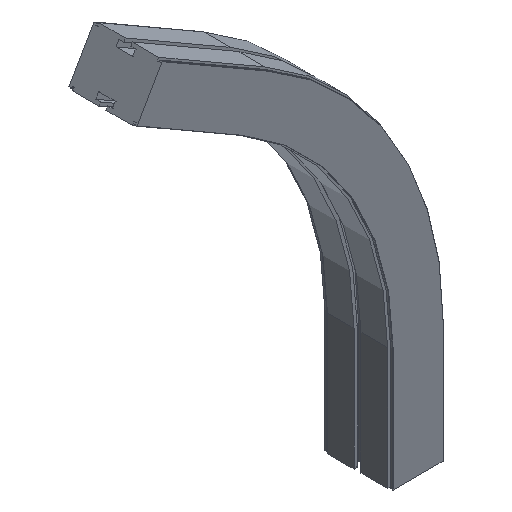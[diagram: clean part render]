
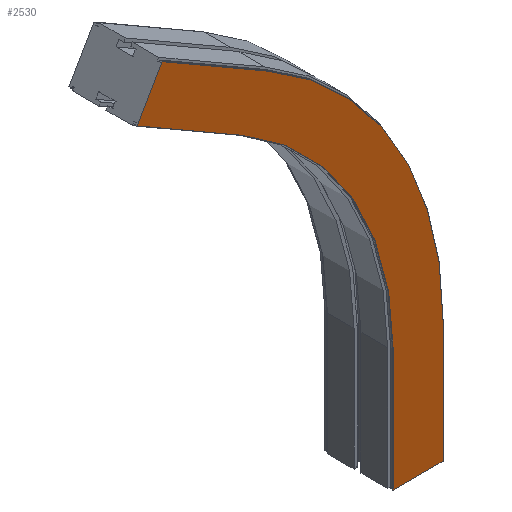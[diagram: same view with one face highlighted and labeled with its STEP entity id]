
A CAD part, isometric view. The second image highlights one B-rep face of the part: STEP entity #2530.
In plain terms, the highlighted planar face has unit normal (0, -1, 0).
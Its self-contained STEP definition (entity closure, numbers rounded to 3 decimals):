
#58 = ORIENTED_EDGE ( 'NONE', *, *, #1904, .T. ) ;
#130 = EDGE_CURVE ( 'NONE', #1209, #2574, #286, .T. ) ;
#192 = CARTESIAN_POINT ( 'NONE',  ( -314.579, -42., 597.954 ) ) ;
#197 = DIRECTION ( 'NONE',  ( 0., 0., -1. ) ) ;
#211 = VERTEX_POINT ( 'NONE', #2377 ) ;
#216 = LINE ( 'NONE', #2683, #2805 ) ;
#236 = CARTESIAN_POINT ( 'NONE',  ( -30.65, -42., 150. ) ) ;
#259 = AXIS2_PLACEMENT_3D ( 'NONE', #454, #3118, #197 ) ;
#286 = LINE ( 'NONE', #236, #2152 ) ;
#380 = ORIENTED_EDGE ( 'NONE', *, *, #630, .F. ) ;
#454 = CARTESIAN_POINT ( 'NONE',  ( -400., -42., 150. ) ) ;
#507 = DIRECTION ( 'NONE',  ( -0.5, 0., -0.866 ) ) ;
#630 = EDGE_CURVE ( 'NONE', #2718, #211, #1294, .T. ) ;
#635 = VECTOR ( 'NONE', #2055, 1000. ) ;
#680 = AXIS2_PLACEMENT_3D ( 'NONE', #1923, #1195, #2929 ) ;
#699 = PLANE ( 'NONE',  #680 ) ;
#796 = DIRECTION ( 'NONE',  ( 0., 0., -1. ) ) ;
#899 = LINE ( 'NONE', #1959, #1972 ) ;
#910 = CARTESIAN_POINT ( 'NONE',  ( 30.65, -42., 150. ) ) ;
#942 = EDGE_CURVE ( 'Edge42', #1063, #2308, #216, .T. ) ;
#1043 = CARTESIAN_POINT ( 'NONE',  ( -215.325, -42., 469.866 ) ) ;
#1063 = VERTEX_POINT ( 'NONE', #2698 ) ;
#1161 = ORIENTED_EDGE ( 'NONE', *, *, #942, .T. ) ;
#1195 = DIRECTION ( 'NONE',  ( 0., -1., 0. ) ) ;
#1209 = VERTEX_POINT ( 'NONE', #1656 ) ;
#1210 = FACE_OUTER_BOUND ( 'NONE', #1347, .T. ) ;
#1269 = CARTESIAN_POINT ( 'NONE',  ( -30.65, -42., 0. ) ) ;
#1294 = LINE ( 'NONE', #2068, #635 ) ;
#1347 = EDGE_LOOP ( 'NONE', ( #3026, #2722, #58, #1161, #1969, #380, #3134, #1741 ) ) ;
#1377 = LINE ( 'NONE', #2756, #2759 ) ;
#1452 = EDGE_CURVE ( 'NONE', #2448, #2574, #1377, .T. ) ;
#1554 = VECTOR ( 'NONE', #507, 1000. ) ;
#1646 = DIRECTION ( 'NONE',  ( -1., 0., 0. ) ) ;
#1656 = CARTESIAN_POINT ( 'NONE',  ( -30.65, -42., 150. ) ) ;
#1673 = LINE ( 'NONE', #2245, #1554 ) ;
#1741 = ORIENTED_EDGE ( 'NONE', *, *, #130, .T. ) ;
#1874 = AXIS2_PLACEMENT_3D ( 'NONE', #2549, #2039, #2526 ) ;
#1904 = EDGE_CURVE ( 'Edge18', #2988, #1063, #3005, .T. ) ;
#1923 = CARTESIAN_POINT ( 'NONE',  ( -30.65, -42., 150. ) ) ;
#1956 = CARTESIAN_POINT ( 'NONE',  ( 30.65, -42., 0. ) ) ;
#1959 = CARTESIAN_POINT ( 'NONE',  ( 30.65, -42., 150. ) ) ;
#1969 = ORIENTED_EDGE ( 'NONE', *, *, #2175, .T. ) ;
#1972 = VECTOR ( 'NONE', #2892, 1000. ) ;
#1986 = DIRECTION ( 'NONE',  ( -0.866, 0., 0.5 ) ) ;
#2039 = DIRECTION ( 'NONE',  ( 0., -1., 0. ) ) ;
#2055 = DIRECTION ( 'NONE',  ( -0.866, 0., 0.5 ) ) ;
#2068 = CARTESIAN_POINT ( 'NONE',  ( -215.325, -42., 469.866 ) ) ;
#2152 = VECTOR ( 'NONE', #796, 1000. ) ;
#2175 = EDGE_CURVE ( 'NONE', #2308, #211, #1673, .T. ) ;
#2245 = CARTESIAN_POINT ( 'NONE',  ( -345.229, -42., 544.866 ) ) ;
#2308 = VERTEX_POINT ( 'NONE', #192 ) ;
#2377 = CARTESIAN_POINT ( 'NONE',  ( -345.229, -42., 544.866 ) ) ;
#2448 = VERTEX_POINT ( 'NONE', #1956 ) ;
#2526 = DIRECTION ( 'NONE',  ( 0., 0., -1. ) ) ;
#2530 = ADVANCED_FACE ( 'NONE', ( #1210 ), #699, .T. ) ;
#2549 = CARTESIAN_POINT ( 'NONE',  ( -400., -42., 150. ) ) ;
#2574 = VERTEX_POINT ( 'NONE', #1269 ) ;
#2683 = CARTESIAN_POINT ( 'NONE',  ( -184.675, -42., 522.954 ) ) ;
#2698 = CARTESIAN_POINT ( 'NONE',  ( -184.675, -42., 522.954 ) ) ;
#2718 = VERTEX_POINT ( 'NONE', #1043 ) ;
#2722 = ORIENTED_EDGE ( 'NONE', *, *, #3004, .F. ) ;
#2756 = CARTESIAN_POINT ( 'NONE',  ( -30.65, -42., 0. ) ) ;
#2759 = VECTOR ( 'NONE', #1646, 1000. ) ;
#2805 = VECTOR ( 'NONE', #1986, 1000. ) ;
#2834 = CIRCLE ( 'NONE', #1874, 369.35 ) ;
#2848 = EDGE_CURVE ( 'NONE', #1209, #2718, #2834, .T. ) ;
#2892 = DIRECTION ( 'NONE',  ( 0., 0., -1. ) ) ;
#2929 = DIRECTION ( 'NONE',  ( 1., 0., 0. ) ) ;
#2988 = VERTEX_POINT ( 'NONE', #910 ) ;
#3004 = EDGE_CURVE ( 'NONE', #2988, #2448, #899, .T. ) ;
#3005 = CIRCLE ( 'NONE', #259, 430.65 ) ;
#3026 = ORIENTED_EDGE ( 'NONE', *, *, #1452, .F. ) ;
#3118 = DIRECTION ( 'NONE',  ( 0., -1., 0. ) ) ;
#3134 = ORIENTED_EDGE ( 'NONE', *, *, #2848, .F. ) ;
